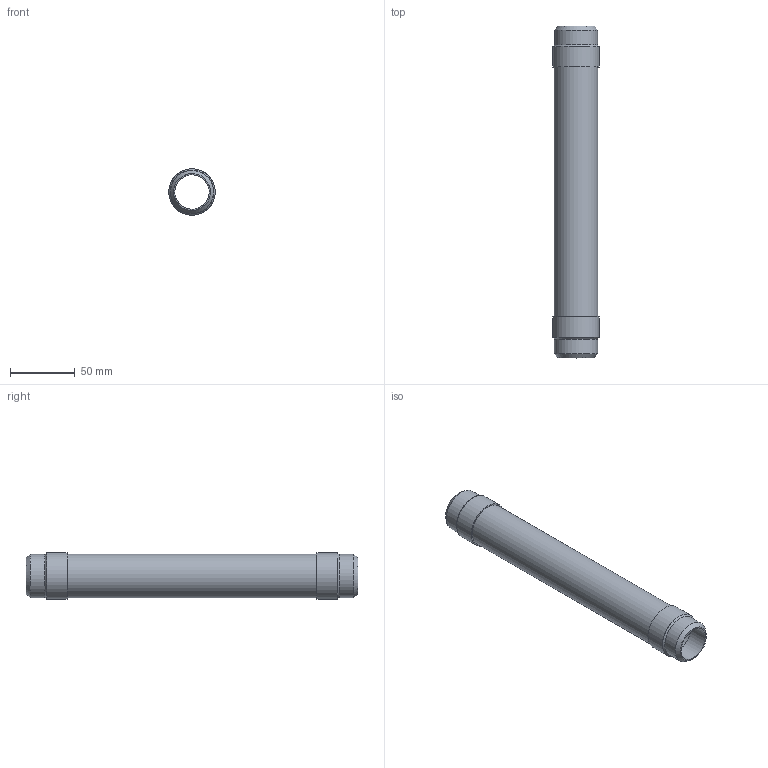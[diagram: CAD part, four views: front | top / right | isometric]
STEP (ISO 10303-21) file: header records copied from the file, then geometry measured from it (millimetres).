
FILE_DESCRIPTION(/* description */ (''),/* implementation_level */ '2;1');
FILE_NAME(/* name */ 'C:\001_Work\Designs\CSAWN\CSAWN-1x10.125.stp',/* time_stamp */ '2016-06-04T16:35:37-04:00',/* author */ ('rramoutar'),/* organization */ ('Mason Industries Inc.'),/* preprocessor_version */ 'ST-DEVELOPER v15.6',/* originating_system */ 'Autodesk Inventor 2015',/* authorisation */ '');
FILE_SCHEMA (('CONFIG_CONTROL_DESIGN'));
Length unit declared in the file: inch
Products named in the file (1): CSAWN-1x10.125
Bounding box: 36.01 x 257.18 x 36.01 mm (x, y, z)
Volume: 20857.2 mm3; surface area: 62048.2 mm2
Topology: 5 solids, 5 shells, 24 faces, 40 edges, 26 vertices
Faces by surface type: cylinder 10, plane 10, cone 4
Full cylindrical faces by diameter (mm): 26.645 x2, 33.02 x1, 33.401 x2, 33.63 x3, 36.011 x2
Entity records: 564 total; most frequent: DIRECTION 98, CARTESIAN_POINT 73, AXIS2_PLACEMENT_3D 49, EDGE_LOOP 48, ORIENTED_EDGE 48, STYLED_ITEM 29, FACE_BOUND 24, FACE_OUTER_BOUND 24
